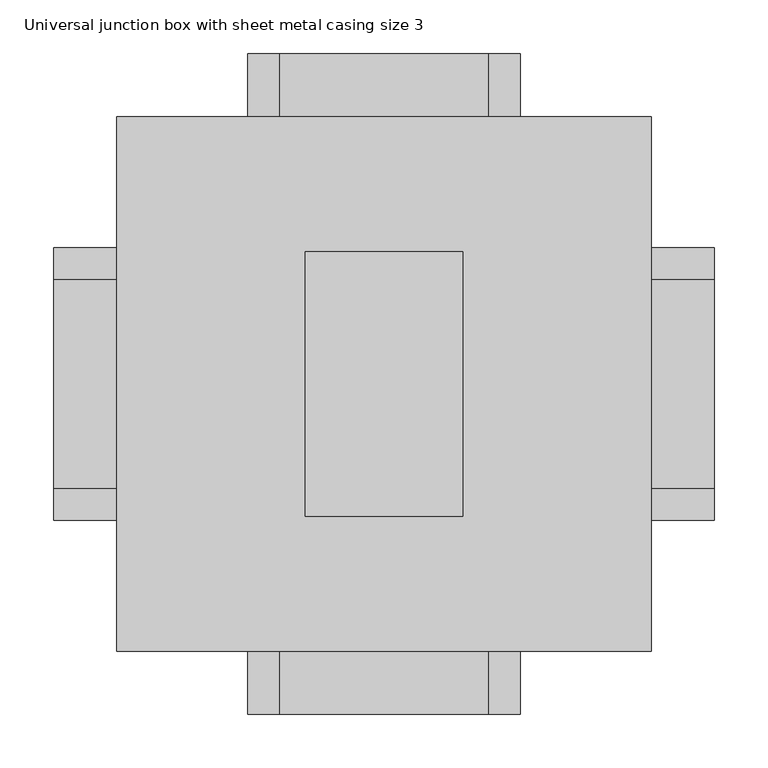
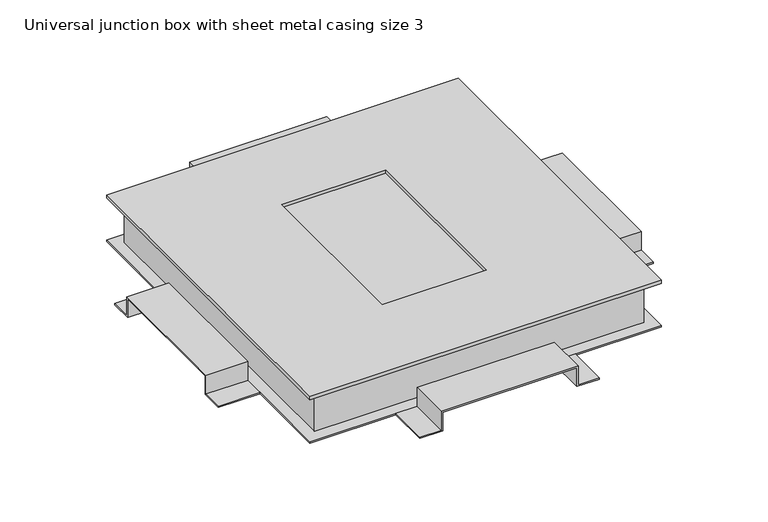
"""IFC4 building model written with IfcOpenShell, lengths in millimetres: cable carrier fitting geometry, Electrical-Installations_Hager_Universal-Junction-Box-With-Sheet-Metal-Casing-Size-3 : Universal junction box with sheet metal casing size 3."""

from ifc_helpers import new_model, si_unit, frame, origin, place, context, project, spatial, polyline, outline, extrude, faceted_brep, source, transform, mapped, element, save


def universal_junction_box_with_sheet_metal_casing_size_3_51affc23(model_context):
    return source(origin(), model_context, "Body", "SolidModel", [
        extrude(outline(polyline([(-14.0, -127.0), (-14.0, -95.0), (14.0, -95.0), (14.0, 95.0), (-14.0, 95.0), (-14.0, 127.0), (-12.0, 127.0), (-12.0, 97.0), (16.0, 97.0), (16.0, -97.0), (-12.0, -97.0), (-12.0, -127.0), (-14.0, -127.0)])), frame((0.0, 249.0, 0.0), z_axis=(0.0, 1.0, 0.0), x_axis=(0.0, 0.0, 1.0)), (0.0, 0.0, 1.0), 59.0),
        extrude(outline(polyline([(-127.0, -14.0), (-127.0, -12.0), (-97.0, -12.0), (-97.0, 16.0), (97.0, 16.0), (97.0, -12.0), (127.0, -12.0), (127.0, -14.0), (95.0, -14.0), (95.0, 14.0), (-95.0, 14.0), (-95.0, -14.0), (-127.0, -14.0)])), frame((-308.0, 0.0, 0.0), z_axis=(1.0, 0.0, 0.0), x_axis=(0.0, 1.0, 0.0)), (0.0, 0.0, 1.0), 59.0),
        extrude(outline(polyline([(-14.0, -127.0), (-14.0, -95.0), (14.0, -95.0), (14.0, 95.0), (-14.0, 95.0), (-14.0, 127.0), (-12.0, 127.0), (-12.0, 97.0), (16.0, 97.0), (16.0, -97.0), (-12.0, -97.0), (-12.0, -127.0), (-14.0, -127.0)])), frame((0.0, -308.0, 0.0), z_axis=(0.0, 1.0, 0.0), x_axis=(0.0, 0.0, 1.0)), (0.0, 0.0, 1.0), 59.0),
        extrude(outline(polyline([(-127.0, -14.0), (-127.0, -12.0), (-97.0, -12.0), (-97.0, 16.0), (97.0, 16.0), (97.0, -12.0), (127.0, -12.0), (127.0, -14.0), (95.0, -14.0), (95.0, 14.0), (-95.0, 14.0), (-95.0, -14.0), (-127.0, -14.0)])), frame((249.0, 0.0, 0.0), z_axis=(1.0, 0.0, 0.0), x_axis=(0.0, 1.0, 0.0)), (0.0, 0.0, 1.0), 59.0),
        faceted_brep([(-249.0, -249.0, 56.0), (249.0, -249.0, 56.0), (249.0, 249.0, 56.0), (-249.0, 249.0, 56.0), (-73.5, 123.5, 56.0), (73.5, 123.5, 56.0), (73.5, -123.5, 56.0), (-73.5, -123.5, 56.0), (-249.0, -249.0, 51.0), (-249.0, 249.0, 51.0), (249.0, 249.0, 51.0), (249.0, -249.0, 51.0), (227.0, 227.0, 51.0), (-227.0, 227.0, 51.0), (-227.0, -227.0, 51.0), (227.0, -227.0, 51.0), (-73.5, 123.5, 51.7820613), (73.5, 123.5, 51.7820613), (73.5, -123.5, 51.7820613), (-73.5, -123.5, 51.7820613), (227.0, 227.0, 51.7820613), (227.0, -227.0, 51.7820613), (-227.0, -227.0, 51.7820613), (-227.0, 227.0, 51.7820613)], [[[0, 1, 2, 3], [4, 5, 6, 7]], [[8, 9, 10, 11], [12, 13, 14, 15]], [[1, 0, 8, 11]], [[2, 1, 11, 10]], [[3, 2, 10, 9]], [[0, 3, 9, 8]], [[5, 4, 16, 17]], [[6, 5, 17, 18]], [[7, 6, 18, 19]], [[4, 7, 19, 16]], [[20, 21, 22, 23], [17, 16, 19, 18]], [[20, 23, 13, 12]], [[23, 22, 14, 13]], [[22, 21, 15, 14]], [[21, 20, 12, 15]]]),
        extrude(outline(polyline([(249.0, 249.0), (249.0, -249.0), (-249.0, -249.0), (-249.0, 249.0), (249.0, 249.0)])), frame((0.0, 0.0, -14.0), z_axis=(0.0, 0.0, 1.0), x_axis=(1.0, 0.0, 0.0)), (0.0, 0.0, 1.0), 2.0),
        faceted_brep([(-233.0, 233.0, 51.0), (-233.0, -233.0, 51.0), (233.0, -233.0, 51.0), (233.0, 233.0, 51.0), (-227.0, 227.0, 51.0), (227.0, 227.0, 51.0), (227.0, -227.0, 51.0), (-227.0, -227.0, 51.0), (-233.0, 233.0, -14.0), (233.0, 233.0, -14.0), (233.0, -233.0, -14.0), (-233.0, -233.0, -14.0), (227.0, 227.0, -6.1362798), (-227.0, 227.0, -6.1362798), (-227.0, -227.0, -6.1362798), (227.0, -227.0, -6.1362798)], [[[0, 1, 2, 3], [4, 5, 6, 7]], [[8, 9, 10, 11]], [[1, 0, 8, 11]], [[2, 1, 11, 10]], [[3, 2, 10, 9]], [[0, 3, 9, 8]], [[12, 13, 14, 15]], [[13, 12, 5, 4]], [[14, 13, 4, 7]], [[15, 14, 7, 6]], [[12, 15, 6, 5]]]),
    ])


if __name__ == "__main__":
    model = new_model("IFC4")
    model_context = context("Model", 3, world=origin())
    ifc_project = project(units=[si_unit("LENGTHUNIT", "METRE", prefix="MILLI")], contexts=[model_context])
    site = spatial("IfcSite", under=ifc_project)
    building = spatial("IfcBuilding", under=site)
    placement = place(None, origin())
    universal_junction_box_with_sheet_metal_casing_size_3_shape = universal_junction_box_with_sheet_metal_casing_size_3_51affc23(model_context)
    element("IfcCableCarrierFitting", 1, ObjectType="Electrical-Installations_Hager_Universal-Junction-Box-With-Sheet-Metal-Casing-Size-3 : Universal junction box with sheet metal casing size 3", at=placement, inside=building, context=model_context, shape_type="MappedRepresentation", body=[
        mapped(universal_junction_box_with_sheet_metal_casing_size_3_shape, transform((0.0, 0.0, 0.0), x_axis=(1.0, 0.0, 0.0), y_axis=(0.0, 1.0, 0.0), z_axis=(0.0, 0.0, 1.0))),
    ])
    save(model, "model.ifc")
